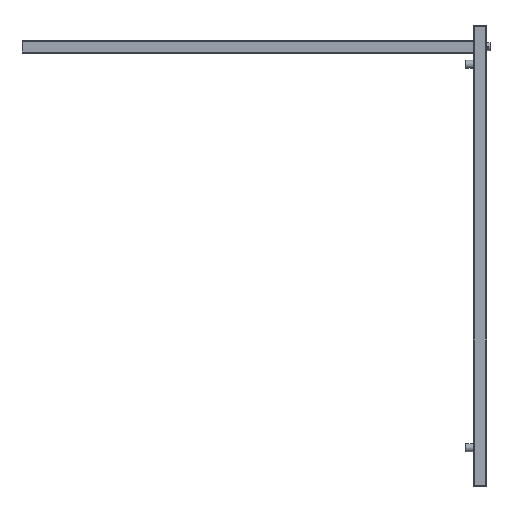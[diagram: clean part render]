
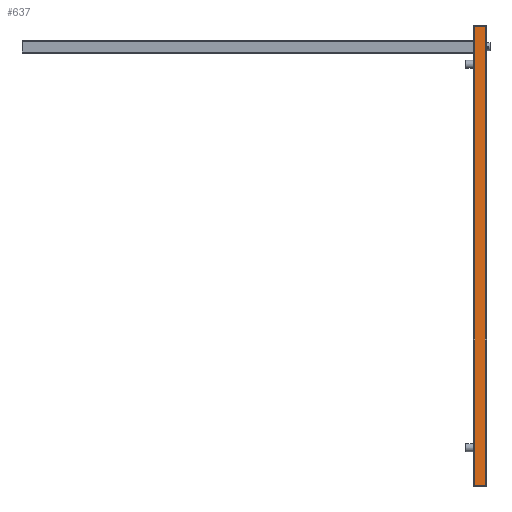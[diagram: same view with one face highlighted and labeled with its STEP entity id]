
A CAD part, left-side view. The second image highlights one B-rep face of the part: STEP entity #637.
In plain terms, the highlighted planar face has unit normal (-1, 0, 0) as drawn and (0, 0, -1) by its records, which use the part's own axes.
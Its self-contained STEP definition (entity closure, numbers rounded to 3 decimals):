
#637 = ADVANCED_FACE( '', ( #1340 ), #1341, .T. );
#1340 = FACE_OUTER_BOUND( '', #2081, .T. );
#1341 = PLANE( '', #2082 );
#2081 = EDGE_LOOP( '', ( #4037, #4038, #4039, #4040 ) );
#2082 = AXIS2_PLACEMENT_3D( '', #4041, #4042, #4043 );
#4037 = ORIENTED_EDGE( '', *, *, #4520, .F. );
#4038 = ORIENTED_EDGE( '', *, *, #4778, .T. );
#4039 = ORIENTED_EDGE( '', *, *, #4235, .T. );
#4040 = ORIENTED_EDGE( '', *, *, #4737, .T. );
#4041 = CARTESIAN_POINT( '', ( -15., 1056., -15. ) );
#4042 = DIRECTION( '', ( 0., 0., -1. ) );
#4043 = DIRECTION( '', ( -1., 0., 0. ) );
#4235 = EDGE_CURVE( '', #5050, #5048, #5051, .T. );
#4520 = EDGE_CURVE( '', #5554, #5556, #5557, .T. );
#4737 = EDGE_CURVE( '', #5048, #5556, #5862, .T. );
#4778 = EDGE_CURVE( '', #5554, #5050, #5917, .F. );
#5048 = VERTEX_POINT( '', #6238 );
#5050 = VERTEX_POINT( '', #6240 );
#5051 = LINE( '', #6241, #6242 );
#5554 = VERTEX_POINT( '', #6896 );
#5556 = VERTEX_POINT( '', #6898 );
#5557 = LINE( '', #6899, #6900 );
#5862 = LINE( '', #7317, #7318 );
#5917 = LINE( '', #7394, #7395 );
#6238 = CARTESIAN_POINT( '', ( 12., 1056., -15. ) );
#6240 = CARTESIAN_POINT( '', ( -12., 1056., -15. ) );
#6241 = CARTESIAN_POINT( '', ( -15., 1056., -15. ) );
#6242 = VECTOR( '', #7756, 1000. );
#6896 = CARTESIAN_POINT( '', ( -12., 0., -15. ) );
#6898 = CARTESIAN_POINT( '', ( 12., 0., -15. ) );
#6899 = CARTESIAN_POINT( '', ( -15., 0., -15. ) );
#6900 = VECTOR( '', #8208, 1000. );
#7317 = CARTESIAN_POINT( '', ( 12., 1056., -15. ) );
#7318 = VECTOR( '', #8450, 1000. );
#7394 = CARTESIAN_POINT( '', ( -12., 1056., -15. ) );
#7395 = VECTOR( '', #8487, 1000. );
#7756 = DIRECTION( '', ( 1., 0., 0. ) );
#8208 = DIRECTION( '', ( 1., 0., 0. ) );
#8450 = DIRECTION( '', ( 0., -1., 0. ) );
#8487 = DIRECTION( '', ( 0., -1., 0. ) );
